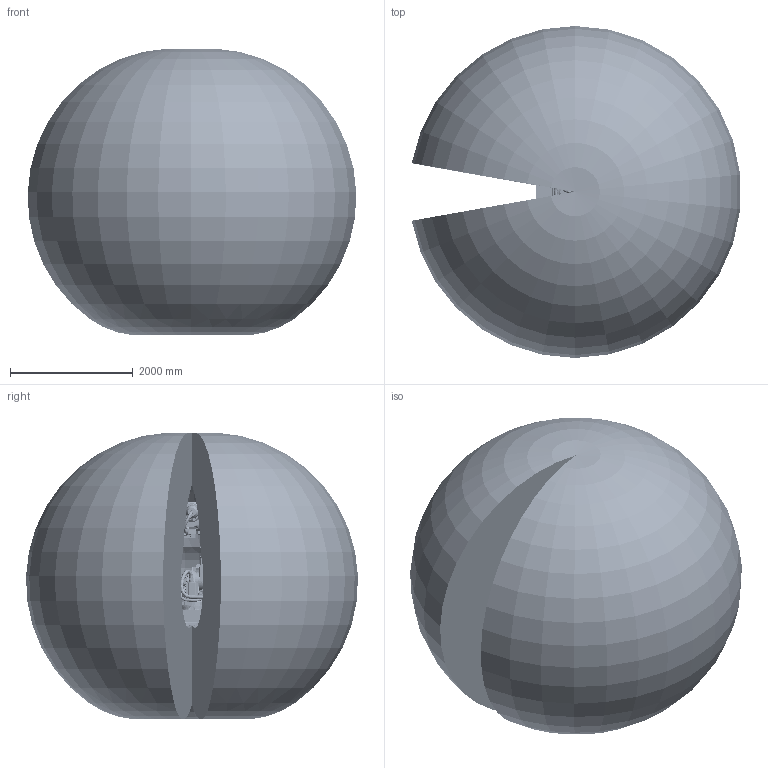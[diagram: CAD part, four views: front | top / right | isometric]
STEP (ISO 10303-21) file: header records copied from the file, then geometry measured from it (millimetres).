
FILE_DESCRIPTION (( 'STEP AP214' ), '1' );
FILE_NAME ('IRB5710-LID-SW_70kg-270_OC_02_ASM.step', '2025-07-07T14:19:41', ( '' ), ( '' ), 'SwSTEP 2.0', 'SolidWorks 2024', '' );
FILE_SCHEMA (( 'AUTOMOTIVE_DESIGN' ));
Length unit declared in the file: millimetre
Products named in the file (18): IRB5710-LID_70kg-270_OmniCore_rev01_LINK03_CAD; IRB5710-LID-SW_70kg-270_OC_00_LINK01_CABLE; IRB5710-LID_70kg-270_OC_00_Working-space_CAD; IRB5710-LID_70kg-270_OmniCore_rev00_LINK04_CAD; IRB5710-LID_70kg-270_OmniCore_rev00_LINK02m_CABLE; IRB5710-LID_70kg-270_OC_rev01_LINK04_CABLE; IRB5710-LID_70kg-270_OmniCore_rev00_LINK05_CAD; IRB5710-LID-SW_70kg-270_OC_00_LINK02_CABLE; IRB5710-LID-SW_70kg-270_OC_01_LINK03b_CABLE; IRB5710-LID_70kg-270_OmniCore_rev00_LINK01m_CABLE; IRB5710-LID_70kg-270_OC_00_BASE_CAD; IRB5710-LID_70kg-270_OmniCore_rev00_LINK03m_CABLE; IRB5710-LID-SW_70kg-270_OC_00_LINK03a_CABLE; IRB5710-LID-SW_70kg-270_OC_02_ASM; IRB5710-LID_70kg-270_OmniCore_rev00_LINK01_CAD; IRB5710-LID_70kg-270_OmniCore_rev00_LINK02_CAD; IRB5710-LID_70kg-270_OmniCore_rev00_LINK05_CABLE; IRB5710-LID_70kg-270_OmniCore_rev00_LINK06_CABLE
Assembly tree (17 placements, depth 2):
  IRB5710-LID-SW_70kg-270_OC_02_ASM
    IRB5710-LID_70kg-270_OC_00_BASE_CAD
    IRB5710-LID_70kg-270_OmniCore_rev00_LINK01_CAD
    IRB5710-LID_70kg-270_OmniCore_rev00_LINK02_CAD
    IRB5710-LID_70kg-270_OmniCore_rev01_LINK03_CAD
    IRB5710-LID_70kg-270_OmniCore_rev00_LINK04_CAD
    IRB5710-LID_70kg-270_OmniCore_rev00_LINK05_CAD
    IRB5710-LID_70kg-270_OmniCore_rev00_LINK01m_CABLE
    IRB5710-LID_70kg-270_OmniCore_rev00_LINK02m_CABLE
    IRB5710-LID_70kg-270_OmniCore_rev00_LINK03m_CABLE
    IRB5710-LID_70kg-270_OC_00_Working-space_CAD
    IRB5710-LID-SW_70kg-270_OC_00_LINK01_CABLE
    IRB5710-LID-SW_70kg-270_OC_00_LINK02_CABLE
    IRB5710-LID-SW_70kg-270_OC_00_LINK03a_CABLE
    IRB5710-LID-SW_70kg-270_OC_01_LINK03b_CABLE
    IRB5710-LID_70kg-270_OmniCore_rev00_LINK05_CABLE
    IRB5710-LID_70kg-270_OmniCore_rev00_LINK06_CABLE
    IRB5710-LID_70kg-270_OC_rev01_LINK04_CABLE
Bounding box: 5343.74 x 5399.54 x 4662.82 mm (x, y, z)
Volume: 67972645395.8 mm3; surface area: 124235207.1 mm2
Topology: 22 solids, 98 shells, 8946 faces, 22456 edges, 14294 vertices
Faces by surface type: plane 4060, cylinder 2489, cone 1043, bspline 895, torus 369, sphere 90
Entity records: 427725 total; most frequent: CARTESIAN_POINT 188144, ORIENTED_EDGE 44458, DIRECTION 41067, EDGE_CURVE 22229, AXIS2_PLACEMENT_3D 15184, VERTEX_POINT 14282, VECTOR 10699, LINE 10699
